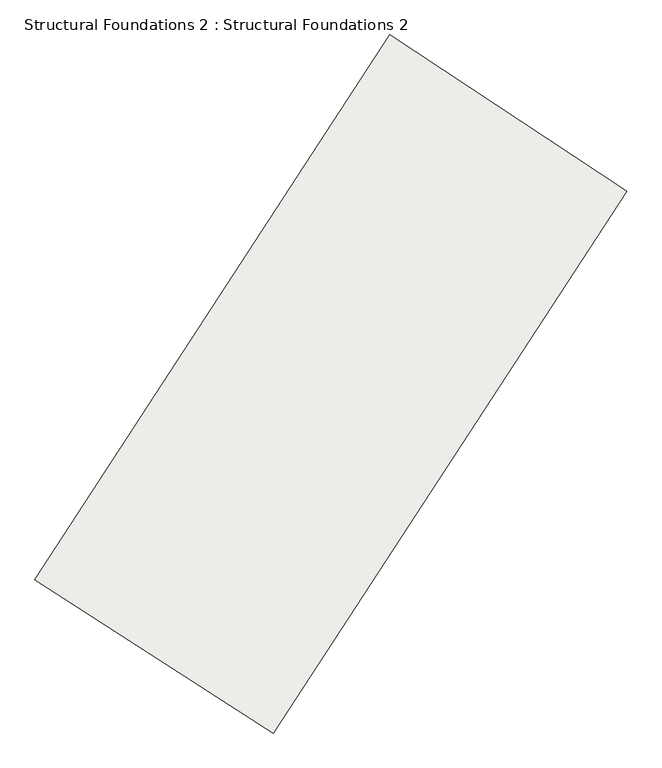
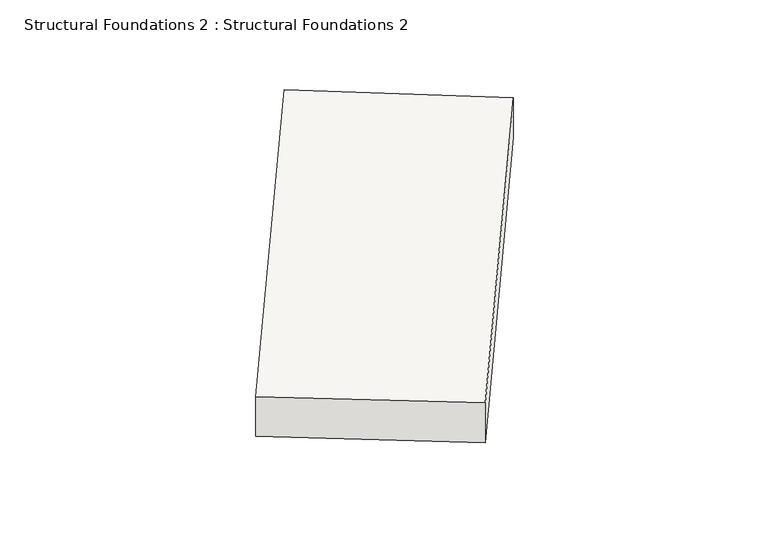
"""IFC4 building model written with IfcOpenShell, lengths in millimetres: slab geometry, Structural Foundations 2 : Structural Foundations 2."""

from ifc_helpers import new_model, si_unit, frame, origin, place, context, project, spatial, source, transform, mapped, element, save
from ifc_brep_helpers import plane_surface, spline_curve, spline_surface, advanced_brep


def structural_foundations_2_structural_foundations_2_b98e785e(model_context):
    return source(origin(), model_context, "Body", "AdvancedBrep", [
        advanced_brep(
        [(-345873.2283602, -500444.0520562, 634160.0), (-349068.8886217, -498387.9255586, 634160.0), (-349068.8886217, -498387.9255586, 633360.0), (-345873.2283602, -500444.0520562, 633360.0), (-341142.8014871, -493184.6877306, 634260.0), (-341142.8014871, -493184.6877306, 633460.0), (-344314.051608, -491091.6785484, 633460.0), (-344314.051608, -491091.6785484, 634260.0)],
        [
            (0, 1),
            (1, 2),
            (2, 3),
            (3, 0),
            (4, 5),
            (5, 6),
            (6, 7),
            (7, 4),
            (7, 1, spline_curve(3, [(-344314.051608, -491091.6785484, 634260.0), (-345913.133390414, -493514.509402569, 634226.666666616), (-347498.114812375, -495946.64659566, 634193.333333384), (-349068.8886217, -498387.9255586, 634160.0)], [4, 4], [0.0, 28.50175079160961])),
            (0, 4, spline_curve(3, [(-345873.2283602, -500444.0520562, 634160.0), (-344310.520043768, -498015.115187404, 634193.333333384), (-342733.675341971, -495595.272218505, 634226.666666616), (-341142.8014871, -493184.6877306, 634260.0)], [4, 4], [0.0, 28.50175079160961])),
            (6, 2, spline_curve(3, [(-344314.051608, -491091.6785484, 633460.0), (-345913.133390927, -493514.509402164, 633426.66666655), (-347498.114812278, -495946.646594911, 633393.33333345), (-349068.8886217, -498387.9255586, 633360.0)], [4, 4], [0.0, 28.574298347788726])),
            (5, 3, spline_curve(3, [(-341142.8014871, -493184.6877306, 633460.0), (-342733.675341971, -495595.272218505, 633426.666666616), (-344310.520043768, -498015.115187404, 633393.333333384), (-345873.2283602, -500444.0520562, 633360.0)], [4, 4], [0.0, 28.501750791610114])),
        ],
        [
            plane_surface(frame((-347471.0584909, -499415.9888074, 633760.0), z_axis=(-0.541087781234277, -0.8409661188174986, 0.0), x_axis=(-0.8409661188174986, 0.541087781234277, 0.0))),
            plane_surface(frame((-342728.4265475, -492138.1831395, 633860.0), z_axis=(0.550839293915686, 0.834611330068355, 0.0), x_axis=(-0.834611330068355, 0.550839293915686, 0.0))),
            spline_surface(3, 3, [[(-341142.8014871, -493184.6877306, 634260.0), (-342733.675342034, -495595.272218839, 634226.666666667), (-344310.520043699, -498015.115187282, 634193.333333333), (-345873.2283602, -500444.0520562, 634160.0)], [(-342199.884860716, -492487.018003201, 634260.0), (-343793.494691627, -494901.684613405, 634226.666666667), (-345373.051633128, -497325.625656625, 634193.333333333), (-346938.44844738, -499758.676556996, 634160.0)], [(-343256.968234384, -491789.348275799, 634260.0), (-344853.314041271, -494208.097007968, 634226.666666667), (-346435.583222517, -496636.136125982, 634193.333333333), (-348003.66853452, -499073.301057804, 634160.0)], [(-344314.051608, -491091.6785484, 634260.0), (-345913.133390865, -493514.509402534, 634226.666666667), (-347498.114811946, -495946.646595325, 634193.333333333), (-349068.8886217, -498387.9255586, 634160.0)]], [4, 4], [4, 4], [0.0, 12.466633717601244], [0.0, 28.50175079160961]),
            spline_surface(3, 3, [[(-344314.051608, -491091.6785484, 634260.0), (-345913.133390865, -493514.509402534, 634226.666666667), (-347498.114811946, -495946.646595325, 634193.333333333), (-349068.8886217, -498387.9255586, 634160.0)], [(-344314.051608, -491091.6785484, 633993.333333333), (-345913.133390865, -493514.509402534, 633960.0), (-347498.114811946, -495946.646595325, 633926.666666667), (-349068.8886217, -498387.9255586, 633893.333333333)], [(-344314.051608, -491091.6785484, 633726.666666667), (-345913.133390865, -493514.509402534, 633693.333333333), (-347498.114811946, -495946.646595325, 633660.0), (-349068.8886217, -498387.9255586, 633626.666666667)], [(-344314.051608, -491091.6785484, 633460.0), (-345913.133390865, -493514.509402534, 633426.666666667), (-347498.114811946, -495946.646595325, 633393.333333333), (-349068.8886217, -498387.9255586, 633360.0)]], [4, 4], [4, 4], [0.0, 2.6246719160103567], [0.0, 28.574298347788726]),
            spline_surface(3, 3, [[(-344314.051608, -491091.6785484, 633460.0), (-345913.133390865, -493514.509402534, 633426.666666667), (-347498.114811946, -495946.646595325, 633393.333333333), (-349068.8886217, -498387.9255586, 633360.0)], [(-343256.968234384, -491789.348275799, 633460.0), (-344853.314041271, -494208.097007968, 633426.666666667), (-346435.583222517, -496636.136125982, 633393.333333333), (-348003.66853452, -499073.301057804, 633360.0)], [(-342199.884860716, -492487.018003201, 633460.0), (-343793.494691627, -494901.684613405, 633426.666666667), (-345373.051633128, -497325.625656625, 633393.333333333), (-346938.44844738, -499758.676556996, 633360.0)], [(-341142.8014871, -493184.6877306, 633460.0), (-342733.675342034, -495595.272218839, 633426.666666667), (-344310.520043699, -498015.115187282, 633393.333333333), (-345873.2283602, -500444.0520562, 633360.0)]], [4, 4], [4, 4], [0.0, 12.466633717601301], [0.0, 28.501750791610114]),
            spline_surface(3, 3, [[(-341142.8014871, -493184.6877306, 633460.0), (-342733.675342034, -495595.272218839, 633426.666666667), (-344310.520043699, -498015.115187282, 633393.333333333), (-345873.2283602, -500444.0520562, 633360.0)], [(-341142.8014871, -493184.6877306, 633726.666666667), (-342733.675342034, -495595.272218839, 633693.333333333), (-344310.520043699, -498015.115187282, 633660.0), (-345873.2283602, -500444.0520562, 633626.666666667)], [(-341142.8014871, -493184.6877306, 633993.333333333), (-342733.675342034, -495595.272218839, 633960.0), (-344310.520043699, -498015.115187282, 633926.666666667), (-345873.2283602, -500444.0520562, 633893.333333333)], [(-341142.8014871, -493184.6877306, 634260.0), (-342733.675342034, -495595.272218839, 634226.666666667), (-344310.520043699, -498015.115187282, 634193.333333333), (-345873.2283602, -500444.0520562, 634160.0)]], [4, 4], [4, 4], [0.0, 2.6246719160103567], [0.0, 28.429203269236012]),
        ],
        [
            (0, [[1, 2, 3, 4]]),
            (1, [[5, 6, 7, 8]]),
            (2, [[-8, 9, -1, 10]]),
            (3, [[-7, 11, -2, -9]]),
            (4, [[-6, 12, -3, -11]]),
            (5, [[-5, -10, -4, -12]]),
        ],
    ),
    ])


if __name__ == "__main__":
    model = new_model("IFC4")
    model_context = context("Model", 3, world=origin())
    ifc_project = project(units=[si_unit("LENGTHUNIT", "METRE", prefix="MILLI")], contexts=[model_context])
    site = spatial("IfcSite", under=ifc_project)
    building = spatial("IfcBuilding", under=site)
    placement = place(None, origin())
    structural_foundations_2_structural_foundations_2_shape = structural_foundations_2_structural_foundations_2_b98e785e(model_context)
    element("IfcSlab", 1, ObjectType="Structural Foundations 2 : Structural Foundations 2", at=placement, inside=building, context=model_context, shape_type="MappedRepresentation", body=[
        mapped(structural_foundations_2_structural_foundations_2_shape, transform((0.0, 0.0, 0.0), x_axis=(1.0, 0.0, 0.0), y_axis=(0.0, 1.0, 0.0), z_axis=(0.0, 0.0, 1.0))),
    ])
    save(model, "model.ifc")
